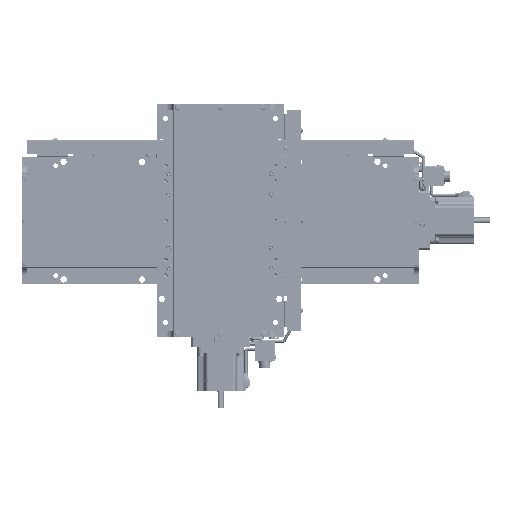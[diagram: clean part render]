
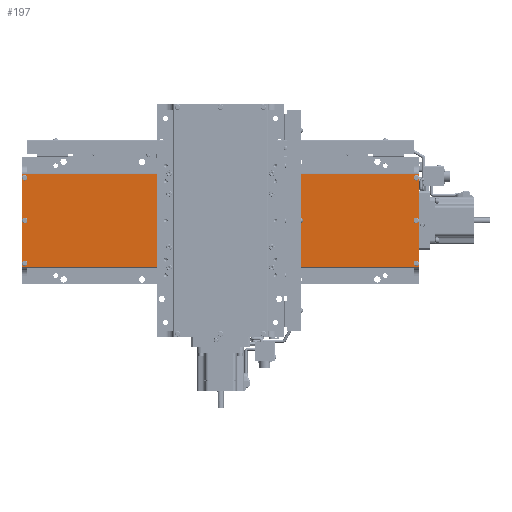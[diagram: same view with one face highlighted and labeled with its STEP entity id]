
A CAD part, top view. The second image highlights one B-rep face of the part: STEP entity #197.
In plain terms, the highlighted planar face has unit normal (0, 0, 1).
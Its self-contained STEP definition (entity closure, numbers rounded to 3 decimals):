
#197=ADVANCED_FACE('',(#5421,#5422,#5423,#5424,#5425,#5426,#5427),#5420,.T.);
#5420=PLANE('',#57214);
#5421=FACE_OUTER_BOUND('',#57215,.T.);
#5422=FACE_BOUND('',#57216,.T.);
#5423=FACE_BOUND('',#57217,.T.);
#5424=FACE_BOUND('',#57218,.T.);
#5425=FACE_BOUND('',#57219,.T.);
#5426=FACE_BOUND('',#57220,.T.);
#5427=FACE_BOUND('',#57221,.T.);
#57211=CARTESIAN_POINT('',(263.,-69.5,63.5));
#57212=DIRECTION('',(0.,0.,1.));
#57213=DIRECTION('',(0.,1.,0.));
#57214=AXIS2_PLACEMENT_3D('',#57211,#57212,#57213);
#57215=EDGE_LOOP('',(#89519,#89520,#89521,#89522,#89523,#89524));
#57216=EDGE_LOOP('',(#89525,#89526));
#57217=EDGE_LOOP('',(#89527,#89528));
#57218=EDGE_LOOP('',(#89529,#89530));
#57219=EDGE_LOOP('',(#89531,#89532));
#57220=EDGE_LOOP('',(#89533,#89534));
#57221=EDGE_LOOP('',(#89535,#89536));
#89519=ORIENTED_EDGE('',*,*,#114655,.T.);
#89520=ORIENTED_EDGE('',*,*,#114656,.T.);
#89521=ORIENTED_EDGE('',*,*,#114639,.F.);
#89522=ORIENTED_EDGE('',*,*,#114657,.F.);
#89523=ORIENTED_EDGE('',*,*,#114609,.F.);
#89524=ORIENTED_EDGE('',*,*,#114658,.T.);
#89525=ORIENTED_EDGE('',*,*,#114659,.F.);
#89526=ORIENTED_EDGE('',*,*,#114660,.F.);
#89527=ORIENTED_EDGE('',*,*,#114661,.F.);
#89528=ORIENTED_EDGE('',*,*,#114662,.F.);
#89529=ORIENTED_EDGE('',*,*,#114663,.F.);
#89530=ORIENTED_EDGE('',*,*,#114664,.F.);
#89531=ORIENTED_EDGE('',*,*,#114665,.F.);
#89532=ORIENTED_EDGE('',*,*,#114666,.F.);
#89533=ORIENTED_EDGE('',*,*,#114667,.F.);
#89534=ORIENTED_EDGE('',*,*,#114668,.F.);
#89535=ORIENTED_EDGE('',*,*,#114669,.F.);
#89536=ORIENTED_EDGE('',*,*,#114670,.F.);
#114609=EDGE_CURVE('',#127523,#127530,#127531,.T.);
#114639=EDGE_CURVE('',#127733,#127740,#127741,.T.);
#114655=EDGE_CURVE('',#127851,#127852,#127853,.T.);
#114656=EDGE_CURVE('',#127852,#127740,#127859,.T.);
#114657=EDGE_CURVE('',#127530,#127733,#127865,.T.);
#114658=EDGE_CURVE('',#127523,#127851,#127871,.T.);
#114659=EDGE_CURVE('',#127877,#127878,#127879,.T.);
#114660=EDGE_CURVE('',#127878,#127877,#127885,.T.);
#114661=EDGE_CURVE('',#127891,#127892,#127893,.T.);
#114662=EDGE_CURVE('',#127892,#127891,#127899,.T.);
#114663=EDGE_CURVE('',#127905,#127906,#127907,.T.);
#114664=EDGE_CURVE('',#127906,#127905,#127913,.T.);
#114665=EDGE_CURVE('',#127919,#127920,#127921,.T.);
#114666=EDGE_CURVE('',#127920,#127919,#127927,.T.);
#114667=EDGE_CURVE('',#127933,#127934,#127935,.T.);
#114668=EDGE_CURVE('',#127934,#127933,#127941,.T.);
#114669=EDGE_CURVE('',#127947,#127948,#127949,.T.);
#114670=EDGE_CURVE('',#127948,#127947,#127955,.T.);
#127523=VERTEX_POINT('',#210729);
#127530=VERTEX_POINT('',#210734);
#127531=LINE('',#210735,#210736);
#127733=VERTEX_POINT('',#210854);
#127740=VERTEX_POINT('',#210858);
#127741=LINE('',#210859,#210860);
#127851=VERTEX_POINT('',#210928);
#127852=VERTEX_POINT('',#210929);
#127853=LINE('',#210930,#210931);
#127859=LINE('',#210933,#210934);
#127865=LINE('',#210936,#210937);
#127871=LINE('',#210939,#210940);
#127877=VERTEX_POINT('',#210942);
#127878=VERTEX_POINT('',#210943);
#127879=CIRCLE('',#210947,3.495);
#127885=CIRCLE('',#210951,3.495);
#127891=VERTEX_POINT('',#210952);
#127892=VERTEX_POINT('',#210953);
#127893=CIRCLE('',#210957,3.495);
#127899=CIRCLE('',#210961,3.495);
#127905=VERTEX_POINT('',#210962);
#127906=VERTEX_POINT('',#210963);
#127907=CIRCLE('',#210967,3.495);
#127913=CIRCLE('',#210971,3.495);
#127919=VERTEX_POINT('',#210972);
#127920=VERTEX_POINT('',#210973);
#127921=CIRCLE('',#210977,3.495);
#127927=CIRCLE('',#210981,3.495);
#127933=VERTEX_POINT('',#210982);
#127934=VERTEX_POINT('',#210983);
#127935=CIRCLE('',#210987,3.495);
#127941=CIRCLE('',#210991,3.495);
#127947=VERTEX_POINT('',#210992);
#127948=VERTEX_POINT('',#210993);
#127949=CIRCLE('',#210997,3.495);
#127955=CIRCLE('',#211001,3.495);
#210729=CARTESIAN_POINT('',(253.,59.5,63.5));
#210734=CARTESIAN_POINT('',(253.,35.,63.5));
#210735=CARTESIAN_POINT('',(253.,59.5,63.5));
#210736=VECTOR('',#210737,24.5);
#210737=DIRECTION('',(0.,-1.,0.));
#210854=CARTESIAN_POINT('',(253.,-35.,63.5));
#210858=CARTESIAN_POINT('',(253.,-59.5,63.5));
#210859=CARTESIAN_POINT('',(253.,-35.,63.5));
#210860=VECTOR('',#210861,24.5);
#210861=DIRECTION('',(0.,-1.,0.));
#210928=CARTESIAN_POINT('',(-253.,59.5,63.5));
#210929=CARTESIAN_POINT('',(-253.,-59.5,63.5));
#210930=CARTESIAN_POINT('',(-253.,59.5,63.5));
#210931=VECTOR('',#210932,119.);
#210932=DIRECTION('',(0.,-1.,0.));
#210933=CARTESIAN_POINT('',(-253.,-59.5,63.5));
#210934=VECTOR('',#210935,506.);
#210935=DIRECTION('',(1.,0.,0.));
#210936=CARTESIAN_POINT('',(253.,35.,63.5));
#210937=VECTOR('',#210938,70.);
#210938=DIRECTION('',(0.,-1.,0.));
#210939=CARTESIAN_POINT('',(253.,59.5,63.5));
#210940=VECTOR('',#210941,506.);
#210941=DIRECTION('',(-1.,0.,0.));
#210942=CARTESIAN_POINT('',(-249.5,-3.495,63.5));
#210943=CARTESIAN_POINT('',(-249.5,3.495,63.5));
#210944=CARTESIAN_POINT('',(-249.5,0.,63.5));
#210945=DIRECTION('',(0.,0.,1.));
#210946=DIRECTION('',(0.,1.,0.));
#210947=AXIS2_PLACEMENT_3D('',#210944,#210945,#210946);
#210948=CARTESIAN_POINT('',(-249.5,0.,63.5));
#210949=DIRECTION('',(0.,0.,1.));
#210950=DIRECTION('',(0.,1.,0.));
#210951=AXIS2_PLACEMENT_3D('',#210948,#210949,#210950);
#210952=CARTESIAN_POINT('',(-249.5,51.005,63.5));
#210953=CARTESIAN_POINT('',(-249.5,57.995,63.5));
#210954=CARTESIAN_POINT('',(-249.5,54.5,63.5));
#210955=DIRECTION('',(0.,0.,1.));
#210956=DIRECTION('',(0.,1.,0.));
#210957=AXIS2_PLACEMENT_3D('',#210954,#210955,#210956);
#210958=CARTESIAN_POINT('',(-249.5,54.5,63.5));
#210959=DIRECTION('',(0.,0.,1.));
#210960=DIRECTION('',(0.,1.,0.));
#210961=AXIS2_PLACEMENT_3D('',#210958,#210959,#210960);
#210962=CARTESIAN_POINT('',(249.5,-57.995,63.5));
#210963=CARTESIAN_POINT('',(249.5,-51.005,63.5));
#210964=CARTESIAN_POINT('',(249.5,-54.5,63.5));
#210965=DIRECTION('',(0.,0.,1.));
#210966=DIRECTION('',(0.,1.,0.));
#210967=AXIS2_PLACEMENT_3D('',#210964,#210965,#210966);
#210968=CARTESIAN_POINT('',(249.5,-54.5,63.5));
#210969=DIRECTION('',(0.,0.,1.));
#210970=DIRECTION('',(0.,1.,0.));
#210971=AXIS2_PLACEMENT_3D('',#210968,#210969,#210970);
#210972=CARTESIAN_POINT('',(249.5,-3.495,63.5));
#210973=CARTESIAN_POINT('',(249.5,3.495,63.5));
#210974=CARTESIAN_POINT('',(249.5,0.,63.5));
#210975=DIRECTION('',(0.,0.,1.));
#210976=DIRECTION('',(0.,1.,0.));
#210977=AXIS2_PLACEMENT_3D('',#210974,#210975,#210976);
#210978=CARTESIAN_POINT('',(249.5,0.,63.5));
#210979=DIRECTION('',(0.,0.,1.));
#210980=DIRECTION('',(0.,1.,0.));
#210981=AXIS2_PLACEMENT_3D('',#210978,#210979,#210980);
#210982=CARTESIAN_POINT('',(249.5,51.005,63.5));
#210983=CARTESIAN_POINT('',(249.5,57.995,63.5));
#210984=CARTESIAN_POINT('',(249.5,54.5,63.5));
#210985=DIRECTION('',(0.,0.,1.));
#210986=DIRECTION('',(0.,1.,0.));
#210987=AXIS2_PLACEMENT_3D('',#210984,#210985,#210986);
#210988=CARTESIAN_POINT('',(249.5,54.5,63.5));
#210989=DIRECTION('',(0.,0.,1.));
#210990=DIRECTION('',(0.,1.,0.));
#210991=AXIS2_PLACEMENT_3D('',#210988,#210989,#210990);
#210992=CARTESIAN_POINT('',(-249.5,-57.995,63.5));
#210993=CARTESIAN_POINT('',(-249.5,-51.005,63.5));
#210994=CARTESIAN_POINT('',(-249.5,-54.5,63.5));
#210995=DIRECTION('',(0.,0.,1.));
#210996=DIRECTION('',(0.,1.,0.));
#210997=AXIS2_PLACEMENT_3D('',#210994,#210995,#210996);
#210998=CARTESIAN_POINT('',(-249.5,-54.5,63.5));
#210999=DIRECTION('',(0.,0.,1.));
#211000=DIRECTION('',(0.,1.,0.));
#211001=AXIS2_PLACEMENT_3D('',#210998,#210999,#211000);
